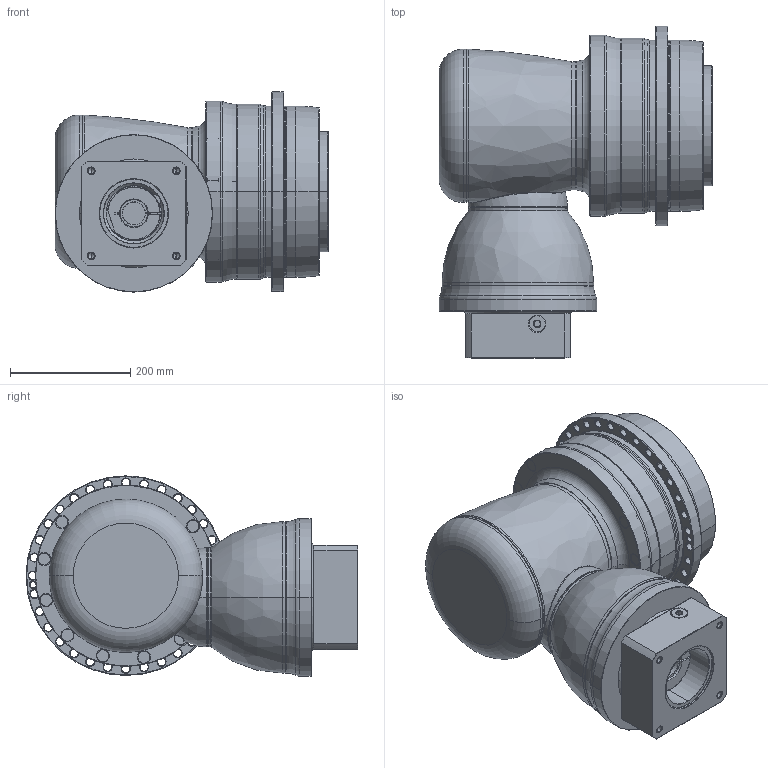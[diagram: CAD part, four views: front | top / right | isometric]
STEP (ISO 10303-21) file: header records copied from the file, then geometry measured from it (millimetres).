
FILE_DESCRIPTION((''),'2;1');
FILE_NAME('APK285_2ST_38-P0409910201_ASM','2018-06-22T',('D00080'),(''),'PRO/ENGINEER BY PARAMETRIC TECHNOLOGY CORPORATION, 2008170','PRO/ENGINEER BY PARAMETRIC TECHNOLOGY CORPORATION, 2008170','');
FILE_SCHEMA(('CONFIG_CONTROL_DESIGN'));
Length unit declared in the file: millimetre
Products named in the file (13): P1008700002; P1802810001; P0278801003; P0359801103; P1211800001; P1315700001; P1007701001; P1318701101; P0503900012; P0912751001; P0409910201; 21711422019; APK285_2ST_38-P0409910201_ASM
Assembly tree (12 placements, depth 2):
  APK285_2ST_38-P0409910201_ASM
    P1008700002
    P1802810001
    P0278801003
    P0359801103
    P1211800001
    P1315700001
    P1007701001
    P1318701101
    P0503900012
    P0912751001
    P0409910201
    21711422019
Bounding box: 455.5 x 552 x 333 mm (x, y, z)
Volume: 35141682 mm3; surface area: 1926832 mm2
Topology: 13 solids, 36 shells, 899 faces, 2032 edges, 1230 vertices
Faces by surface type: cylinder 368, cone 274, plane 150, torus 77, bspline 28, sphere 2
Entity records: 32891 total; most frequent: CARTESIAN_POINT 11865, DIRECTION 4858, ORIENTED_EDGE 3898, AXIS2_PLACEMENT_3D 2074, EDGE_CURVE 1996, VERTEX_POINT 1230, CIRCLE 1166, EDGE_LOOP 1090
